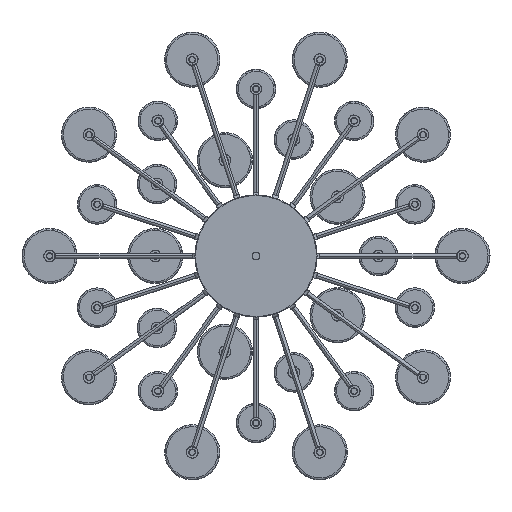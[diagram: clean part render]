
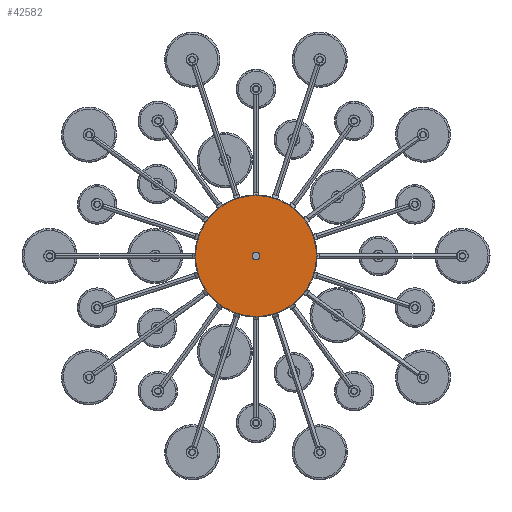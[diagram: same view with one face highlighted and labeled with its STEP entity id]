
A CAD part, front view. The second image highlights one B-rep face of the part: STEP entity #42582.
In plain terms, the highlighted planar face has unit normal (0, -1, 0).
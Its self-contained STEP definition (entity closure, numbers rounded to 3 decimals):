
#268 = VERTEX_POINT ( 'NONE', #8898 ) ;
#680 = PLANE ( 'NONE',  #40127 ) ;
#1714 = VERTEX_POINT ( 'NONE', #24258 ) ;
#2124 = DIRECTION ( 'NONE',  ( 0.309, 0., -0.951 ) ) ;
#2135 = DIRECTION ( 'NONE',  ( 0., -1., 0. ) ) ;
#2146 = ORIENTED_EDGE ( 'NONE', *, *, #26003, .F. ) ;
#2222 = CARTESIAN_POINT ( 'NONE',  ( 0., -36.554, 0. ) ) ;
#2652 = ORIENTED_EDGE ( 'NONE', *, *, #8843, .F. ) ;
#2918 = ORIENTED_EDGE ( 'NONE', *, *, #47755, .F. ) ;
#3696 = AXIS2_PLACEMENT_3D ( 'NONE', #2222, #2135, #2124 ) ;
#6666 = VERTEX_POINT ( 'NONE', #9377 ) ;
#8169 = CARTESIAN_POINT ( 'NONE',  ( 0., -36.554, 0. ) ) ;
#8343 = CARTESIAN_POINT ( 'NONE',  ( 0., -36.554, 0. ) ) ;
#8843 = EDGE_CURVE ( 'NONE', #18161, #6666, #37828, .T. ) ;
#8898 = CARTESIAN_POINT ( 'NONE',  ( 47.898, -36.554, -147.414 ) ) ;
#9377 = CARTESIAN_POINT ( 'NONE',  ( 1.576, -36.554, -4.85 ) ) ;
#9866 = CIRCLE ( 'NONE', #19068, 5.1 ) ;
#12051 = DIRECTION ( 'NONE',  ( -0.309, 0., 0.951 ) ) ;
#12637 = CARTESIAN_POINT ( 'NONE',  ( 0., -36.554, 0. ) ) ;
#13211 = CARTESIAN_POINT ( 'NONE',  ( 0., -36.554, 0. ) ) ;
#14980 = AXIS2_PLACEMENT_3D ( 'NONE', #8169, #34710, #12051 ) ;
#16491 = DIRECTION ( 'NONE',  ( -0.309, 0., 0.951 ) ) ;
#17073 = DIRECTION ( 'NONE',  ( 0.309, 0., -0.951 ) ) ;
#18161 = VERTEX_POINT ( 'NONE', #42906 ) ;
#19068 = AXIS2_PLACEMENT_3D ( 'NONE', #13211, #39582, #17073 ) ;
#20626 = DIRECTION ( 'NONE',  ( -0.309, 0., 0.951 ) ) ;
#21522 = FACE_OUTER_BOUND ( 'NONE', #46663, .T. ) ;
#21955 = EDGE_CURVE ( 'NONE', #6666, #18161, #9866, .T. ) ;
#22616 = CIRCLE ( 'NONE', #27222, 155. ) ;
#24258 = CARTESIAN_POINT ( 'NONE',  ( -47.898, -36.554, 147.414 ) ) ;
#26003 = EDGE_CURVE ( 'NONE', #1714, #268, #47915, .T. ) ;
#27222 = AXIS2_PLACEMENT_3D ( 'NONE', #12637, #39021, #16491 ) ;
#30349 = EDGE_LOOP ( 'NONE', ( #42258, #2652 ) ) ;
#31524 = FACE_BOUND ( 'NONE', #30349, .T. ) ;
#34710 = DIRECTION ( 'NONE',  ( 0., 1., 0. ) ) ;
#37828 = CIRCLE ( 'NONE', #3696, 5.1 ) ;
#39021 = DIRECTION ( 'NONE',  ( 0., 1., 0. ) ) ;
#39582 = DIRECTION ( 'NONE',  ( 0., -1., 0. ) ) ;
#40127 = AXIS2_PLACEMENT_3D ( 'NONE', #8343, #43048, #20626 ) ;
#42258 = ORIENTED_EDGE ( 'NONE', *, *, #21955, .F. ) ;
#42582 = ADVANCED_FACE ( 'NONE', ( #31524, #21522 ), #680, .F. ) ;
#42906 = CARTESIAN_POINT ( 'NONE',  ( -1.576, -36.554, 4.85 ) ) ;
#43048 = DIRECTION ( 'NONE',  ( 0., 1., 0. ) ) ;
#46663 = EDGE_LOOP ( 'NONE', ( #2918, #2146 ) ) ;
#47755 = EDGE_CURVE ( 'NONE', #268, #1714, #22616, .T. ) ;
#47915 = CIRCLE ( 'NONE', #14980, 155. ) ;
